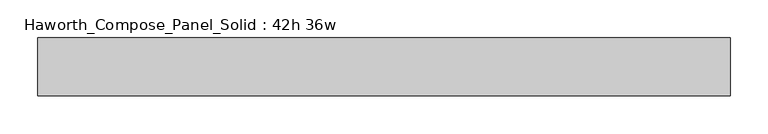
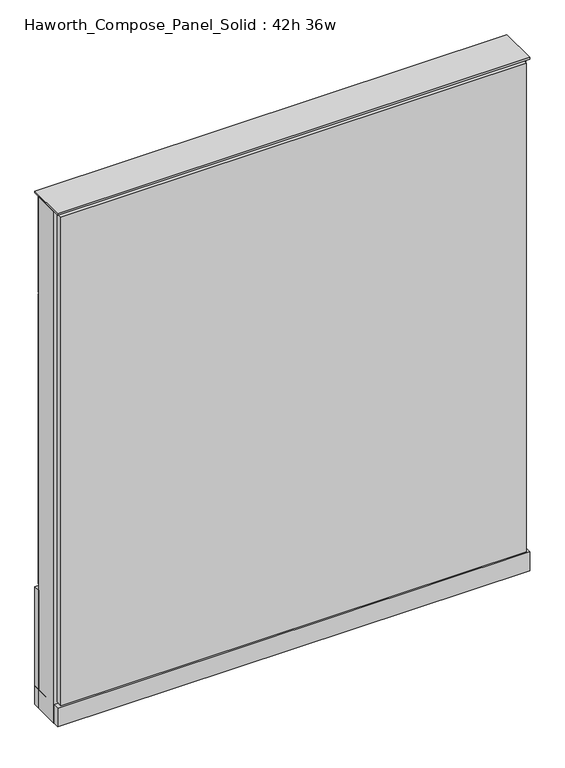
"""IFC4 building model written with IfcOpenShell, lengths in millimetres: furniture geometry, Haworth_Compose_Panel_Solid : 42h 36w."""

from ifc_helpers import new_model, si_unit, point, frame, frame_2d, origin, origin_with_axes, place, context, project, spatial, polyline, circle_curve, trimmed, segment, composite_curve, outline, extrude, source, transform, mapped, element, save


def haworth_compose_panel_solid_42h_36w_8f605ba9(model_context):
    return source(origin(), model_context, "Body", "SweptSolid", [
        extrude(outline(composite_curve([segment(trimmed(circle_curve(frame_2d((-378.5597098, 0.0)), 12.7), [point((-391.2597098, 0.0))], [point((-365.8597098, 0.0))], False, "CARTESIAN"), True, "CONTINUOUS"), segment(trimmed(circle_curve(frame_2d((-378.5597098, 0.0)), 12.7), [point((-365.8597098, 0.0))], [point((-391.2597098, 0.0))], False, "CARTESIAN"), True, "CONTINUOUS")], self_intersect=False)), origin_with_axes(), (0.0, 0.0, 1.0), 12.7),
        extrude(outline(composite_curve([segment(trimmed(circle_curve(frame_2d((383.4402902, 0.0)), 12.7), [point((370.7402902, 0.0))], [point((396.1402902, 0.0))], False, "CARTESIAN"), True, "CONTINUOUS"), segment(trimmed(circle_curve(frame_2d((383.4402902, 0.0)), 12.7), [point((396.1402902, 0.0))], [point((370.7402902, 0.0))], False, "CARTESIAN"), True, "CONTINUOUS")], self_intersect=False)), origin_with_axes(), (0.0, 0.0, 1.0), 12.7),
        extrude(outline(polyline([(453.2902902, -38.1), (-448.4097098, -38.1), (-448.4097098, -25.4), (453.2902902, -25.4), (453.2902902, -38.1)])), frame((0.0, 0.0, 53.975), z_axis=(0.0, 0.0, 1.0), x_axis=(1.0, 0.0, 0.0)), (0.0, 0.0, 1.0), 1000.125),
        extrude(outline(polyline([(459.6402902, 38.1), (459.6402902, 25.4), (-454.7597098, 25.4), (-454.7597098, 38.1), (459.6402902, 38.1)])), frame((0.0, 0.0, 50.8), z_axis=(0.0, 0.0, 1.0), x_axis=(1.0, 0.0, 0.0)), (0.0, 0.0, 1.0), 203.2),
        extrude(outline(polyline([(453.2902902, 38.1), (453.2902902, 25.4), (-448.4097098, 25.4), (-448.4097098, 38.1), (453.2902902, 38.1)])), frame((0.0, 0.0, 854.075), z_axis=(0.0, 0.0, 1.0), x_axis=(1.0, 0.0, 0.0)), (0.0, 0.0, 1.0), 200.025),
        extrude(outline(polyline([(453.2902902, 38.1), (453.2902902, 25.4), (-448.4097098, 25.4), (-448.4097098, 38.1), (453.2902902, 38.1)])), frame((0.0, 0.0, 257.175), z_axis=(0.0, 0.0, 1.0), x_axis=(1.0, 0.0, 0.0)), (0.0, 0.0, 1.0), 593.725),
        extrude(outline(polyline([(459.6402902, -25.4), (-454.7597098, -25.4), (-454.7597098, 25.4), (459.6402902, 25.4), (459.6402902, -25.4)])), frame((0.0, 0.0, 12.7), z_axis=(0.0, 0.0, 1.0), x_axis=(1.0, 0.0, 0.0)), (0.0, 0.0, 1.0), 1047.75),
        extrude(outline(polyline([(-454.7597098, 38.1), (459.6402902, 38.1), (459.6402902, -38.1), (-454.7597098, -38.1), (-454.7597098, 38.1)])), frame((0.0, 0.0, 12.7), z_axis=(0.0, 0.0, 1.0), x_axis=(1.0, 0.0, 0.0)), (0.0, 0.0, 1.0), 38.1),
        extrude(outline(polyline([(-454.7597098, 38.1), (459.6402902, 38.1), (459.6402902, -38.1), (-454.7597098, -38.1), (-454.7597098, 38.1)])), frame((0.0, 0.0, 1060.45), z_axis=(0.0, 0.0, 1.0), x_axis=(1.0, 0.0, 0.0)), (0.0, 0.0, 1.0), 3.175),
    ])


if __name__ == "__main__":
    model = new_model("IFC4")
    model_context = context("Model", 3, world=origin())
    ifc_project = project(units=[si_unit("LENGTHUNIT", "METRE", prefix="MILLI")], contexts=[model_context])
    site = spatial("IfcSite", under=ifc_project)
    building = spatial("IfcBuilding", under=site)
    placement = place(None, origin())
    haworth_compose_panel_solid_42h_36w_shape = haworth_compose_panel_solid_42h_36w_8f605ba9(model_context)
    element("IfcFurniture", 1, ObjectType="Haworth_Compose_Panel_Solid : 42h 36w", at=placement, inside=building, context=model_context, shape_type="MappedRepresentation", body=[
        mapped(haworth_compose_panel_solid_42h_36w_shape, transform((0.0, 0.0, 0.0), x_axis=(1.0, 0.0, 0.0), y_axis=(0.0, 1.0, 0.0), z_axis=(0.0, 0.0, 1.0))),
    ])
    save(model, "model.ifc")
